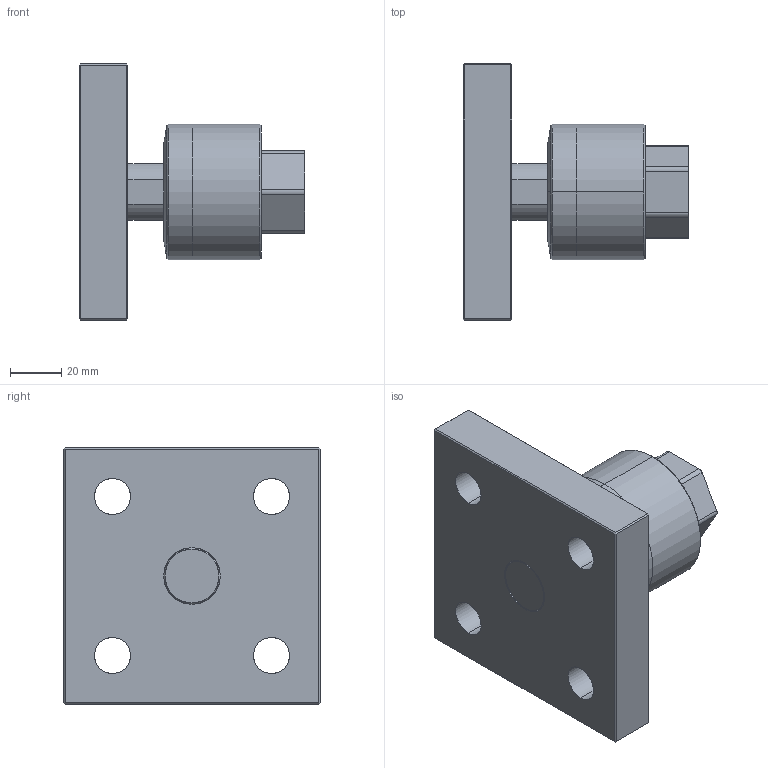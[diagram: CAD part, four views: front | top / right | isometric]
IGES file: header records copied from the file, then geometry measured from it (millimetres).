
Start section: SolidWorks IGES file using analytic representation for surfaces
Global section: file name: C:\Users\Toshiba\Desktop\FCM22A-1.5-F.IGS; native system: SolidWorks 2014; preprocessor: SolidWorks 2014; author: Toshiba; date: 160414.095924; units: millimetre
Bounding box: 88 x 100 x 100 mm (x, y, z)
Surface area: 45891.8 mm2 (no closed solid volume)
Topology: 0 solids, 0 shells, 82 faces, 942 edges, 940 vertices
Faces by surface type: bspline 44, revolution 38
